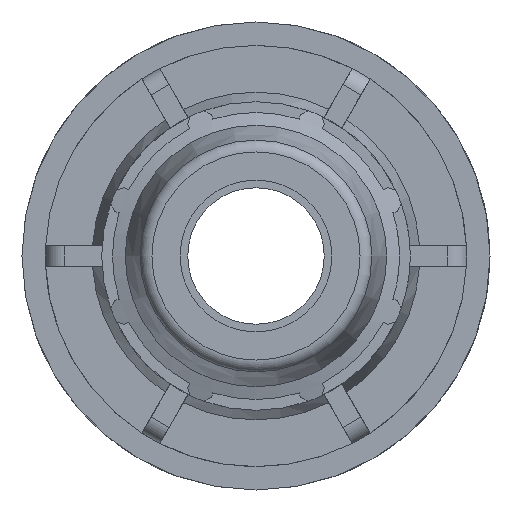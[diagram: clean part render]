
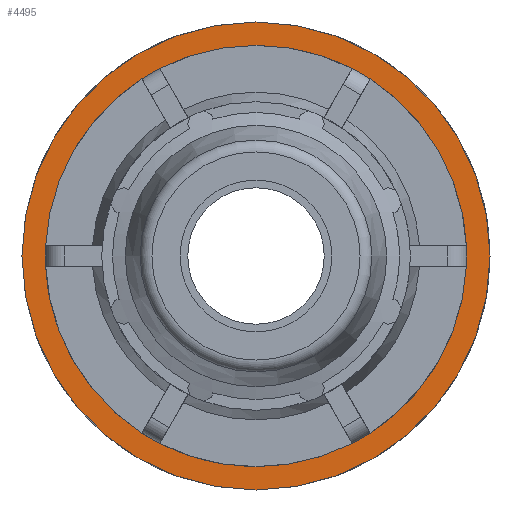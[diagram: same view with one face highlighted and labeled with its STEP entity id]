
A CAD part, left-side view. The second image highlights one B-rep face of the part: STEP entity #4495.
In plain terms, the highlighted planar face has unit normal (-1, 0, 0).
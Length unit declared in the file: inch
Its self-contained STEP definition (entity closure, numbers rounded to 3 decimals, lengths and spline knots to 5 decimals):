
#34=FACE_BOUND('',#596,.T.);
#371=FACE_OUTER_BOUND('',#595,.T.);
#595=EDGE_LOOP('',(#3710,#3711));
#596=EDGE_LOOP('',(#3712,#3713));
#670=CIRCLE('',#4624,1.615);
#671=CIRCLE('',#4625,1.615);
#816=CIRCLE('',#4920,1.292);
#817=CIRCLE('',#4921,1.292);
#1682=VERTEX_POINT('',#6494);
#1683=VERTEX_POINT('',#6496);
#1972=VERTEX_POINT('',#7705);
#1973=VERTEX_POINT('',#7706);
#2146=EDGE_CURVE('',#1682,#1683,#670,.T.);
#2147=EDGE_CURVE('',#1683,#1682,#671,.T.);
#2594=EDGE_CURVE('',#1972,#1973,#816,.T.);
#2595=EDGE_CURVE('',#1973,#1972,#817,.T.);
#3710=ORIENTED_EDGE('',*,*,#2147,.F.);
#3711=ORIENTED_EDGE('',*,*,#2146,.F.);
#3712=ORIENTED_EDGE('',*,*,#2594,.T.);
#3713=ORIENTED_EDGE('',*,*,#2595,.T.);
#4071=PLANE('',#4919);
#4495=ADVANCED_FACE('',(#371,#34),#4071,.T.);
#4624=AXIS2_PLACEMENT_3D('',#6497,#5222,#5223);
#4625=AXIS2_PLACEMENT_3D('',#6498,#5224,#5225);
#4919=AXIS2_PLACEMENT_3D('',#7704,#6043,#6044);
#4920=AXIS2_PLACEMENT_3D('',#7707,#6045,#6046);
#4921=AXIS2_PLACEMENT_3D('',#7708,#6047,#6048);
#5222=DIRECTION('center_axis',(1.,0.,0.));
#5223=DIRECTION('ref_axis',(0.,0.,-1.));
#5224=DIRECTION('center_axis',(1.,0.,0.));
#5225=DIRECTION('ref_axis',(0.,0.,-1.));
#6043=DIRECTION('center_axis',(-1.,0.,0.));
#6044=DIRECTION('ref_axis',(0.,0.,1.));
#6045=DIRECTION('center_axis',(1.,0.,0.));
#6046=DIRECTION('ref_axis',(0.,0.,-1.));
#6047=DIRECTION('center_axis',(1.,0.,0.));
#6048=DIRECTION('ref_axis',(0.,0.,-1.));
#6494=CARTESIAN_POINT('',(1.30516,-1.615,0.));
#6496=CARTESIAN_POINT('',(1.30516,0.,1.615));
#6497=CARTESIAN_POINT('Origin',(1.30516,0.,0.));
#6498=CARTESIAN_POINT('Origin',(1.30516,0.,0.));
#7704=CARTESIAN_POINT('Origin',(1.30516,1.615,0.));
#7705=CARTESIAN_POINT('',(1.30516,1.292,0.));
#7706=CARTESIAN_POINT('',(1.30516,-1.292,0.));
#7707=CARTESIAN_POINT('Origin',(1.30516,0.,0.));
#7708=CARTESIAN_POINT('Origin',(1.30516,0.,0.));
